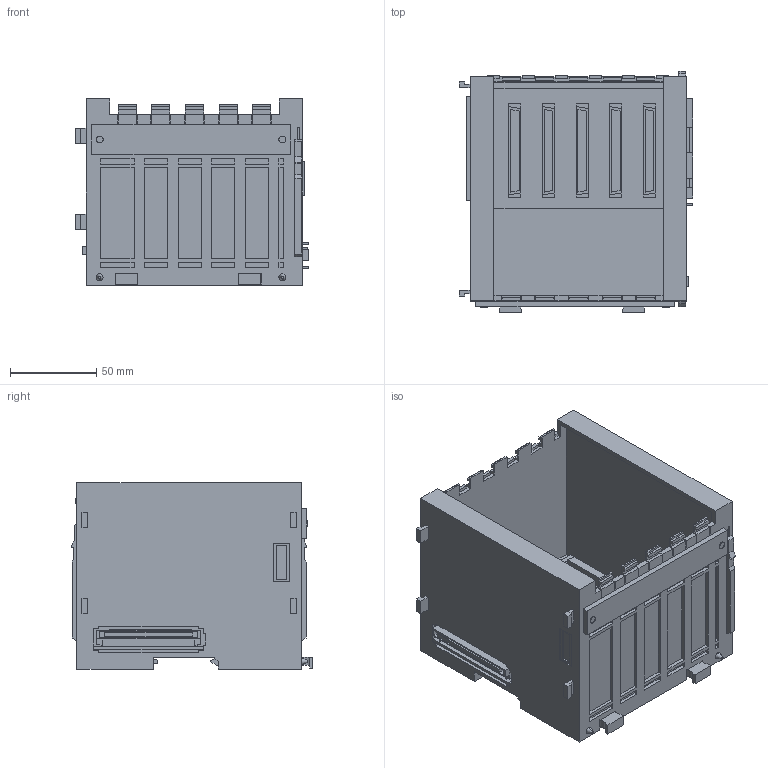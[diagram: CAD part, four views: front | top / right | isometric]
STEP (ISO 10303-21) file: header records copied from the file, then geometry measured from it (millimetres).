
FILE_DESCRIPTION (( 'STEP AP203' ), '1' );
FILE_NAME ('jepmc_bub3005_e.STEP', '2012-08-21T04:26:56', ( '匠エンジニアリング山之内' ), ( 'TAKUMI-Engniaring' ), 'SwSTEP 2.0', 'SolidWorks 2006303', '' );
FILE_SCHEMA (( 'CONFIG_CONTROL_DESIGN' ));
Length unit declared in the file: millimetre
Products named in the file (1): jepmc_bub3005_e
Bounding box: 135.2 x 140 x 108 mm (x, y, z)
Volume: 410408.8 mm3; surface area: 162124 mm2
Topology: 1 solids, 1 shells, 797 faces, 2148 edges, 1428 vertices
Faces by surface type: plane 785, cylinder 8, cone 4
Entity records: 24559 total; most frequent: CARTESIAN_POINT 4374, ORIENTED_EDGE 4296, DIRECTION 3772, EDGE_CURVE 2148, LINE 2120, VECTOR 2120, VERTEX_POINT 1428, EDGE_LOOP 886
